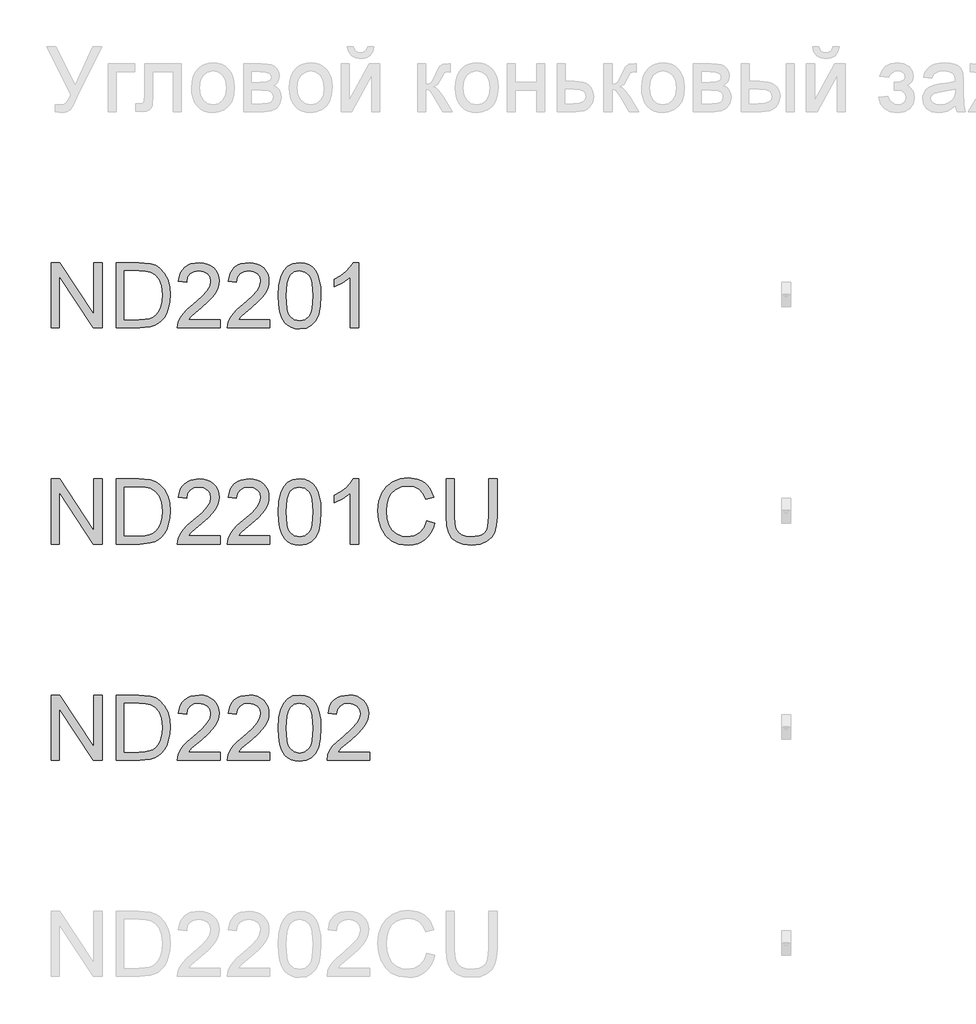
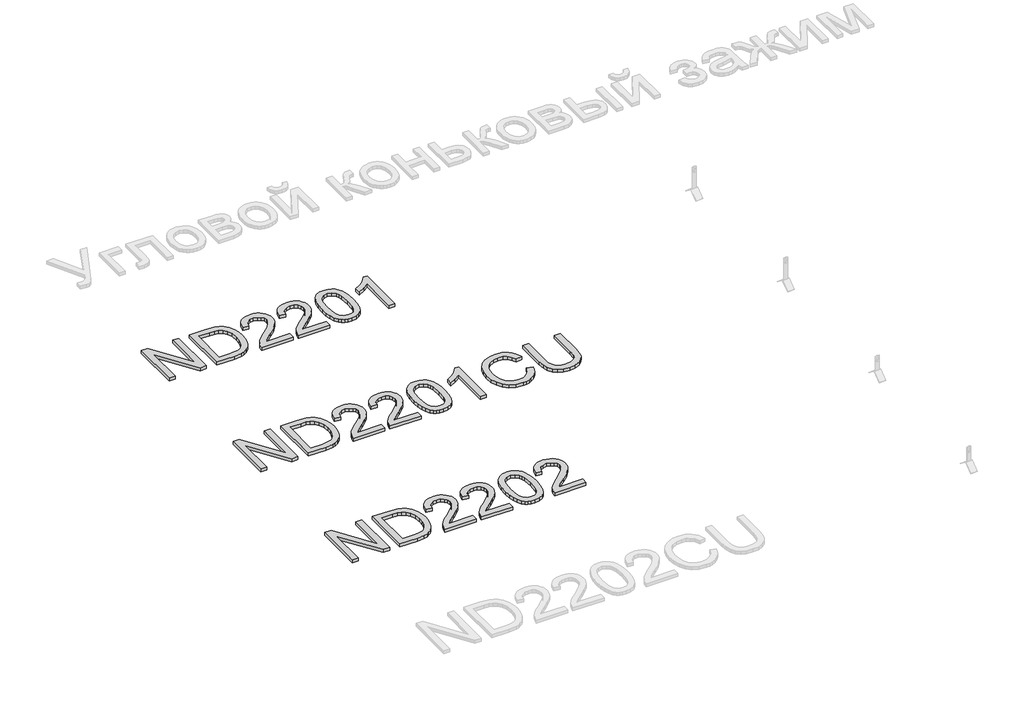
# One storey, part 102 of 124: 3 proxies.
"""IFC4 building model written with IfcOpenShell, lengths in millimetres."""

import ifcopenshell
import ifcopenshell.guid

model = None  # the IFC model being written
_history = None  # IfcOwnerHistory: only IFC2X3 demands one
_inside = {}  # id of a spatial element -> (the spatial element, [elements in it])
_under = {}  # id of a project, library or spatial element -> (it, [spatial elements below it])
_declared = {}  # id of a project -> (the project, [libraries it declares])
_typed = {}  # id of a type object -> (the type object, [elements of that type])
_made_of = {}  # id of a material, layer set ... -> (it, [elements and type objects made of it])


def new_model(schema):
    """Start an empty IFC model of exactly this schema.

    Asked for "IFC4X3", IfcOpenShell would pick the latest addendum, in which some entities
    have other attributes; the version numbers below select the first issue.
    IFC2X3 requires an IfcOwnerHistory on every rooted entity: one is made here for all.
    """
    global model, _history
    if schema == "IFC4X3":
        model = ifcopenshell.file(schema_version=(4, 3, 0, 0))
    else:
        model = ifcopenshell.file(schema=schema)
    _inside.clear()
    _under.clear()
    _declared.clear()
    _typed.clear()
    _made_of.clear()
    _history = None
    if model.schema == "IFC2X3":
        org = make("IfcOrganization", Name="unknown")
        user = make(
            "IfcPersonAndOrganization",
            ThePerson=make("IfcPerson", FamilyName="unknown"),
            TheOrganization=org,
        )
        app = make(
            "IfcApplication",
            ApplicationDeveloper=org,
            Version="unknown",
            ApplicationFullName="unknown",
            ApplicationIdentifier="unknown",
        )
        _history = make(
            "IfcOwnerHistory",
            OwningUser=user,
            OwningApplication=app,
            ChangeAction="ADDED",
            CreationDate=0,
        )
    return model


def make(cls, **values):
    """One entity of the class cls with the attributes given. An attribute that is None is left unset."""
    return model.create_entity(
        cls, **{name: value for name, value in values.items() if value is not None}
    )


def rooted(cls, **values):
    """An entity with a GlobalId (a new one), such as an element, a storey or a relation."""
    return make(cls, GlobalId=ifcopenshell.guid.new(), OwnerHistory=_history, **values)


def si_unit(unit_type, name, prefix=None):
    """IfcSIUnit, for example si_unit("LENGTHUNIT", "METRE", prefix="MILLI")."""
    return make("IfcSIUnit", UnitType=unit_type, Prefix=prefix, Name=name)


def assignment(units):
    """IfcUnitAssignment: the units of a project."""
    return None if units is None else make("IfcUnitAssignment", Units=units)


def point(xyz):
    """IfcCartesianPoint."""
    return None if xyz is None else make("IfcCartesianPoint", Coordinates=xyz)


def direction(xyz):
    """IfcDirection."""
    return None if xyz is None else make("IfcDirection", DirectionRatios=xyz)


def frame(location, z_axis=None, x_axis=None):
    """IfcAxis2Placement3D, a coordinate frame: its origin and axes. An axis left out is left unset."""
    return make(
        "IfcAxis2Placement3D",
        Location=point(location),
        Axis=direction(z_axis),
        RefDirection=direction(x_axis),
    )


def origin():
    """The frame at (0, 0, 0) with its axes left unset."""
    return frame((0.0, 0.0, 0.0))


def origin_with_axes():
    """The frame at (0, 0, 0) with the z axis (0, 0, 1) and the x axis (1, 0, 0) written out."""
    return frame((0.0, 0.0, 0.0), z_axis=(0.0, 0.0, 1.0), x_axis=(1.0, 0.0, 0.0))


def place(relative_to, where):
    """IfcLocalPlacement: puts the frame where relative to a parent placement (None: the world)."""
    return make(
        "IfcLocalPlacement", PlacementRelTo=relative_to, RelativePlacement=where
    )


def context(
    kind, dimensions, precision=None, world=None, true_north=None, identifier=None
):
    """IfcGeometricRepresentationContext, for example the 3D "Model" context."""
    return make(
        "IfcGeometricRepresentationContext",
        ContextIdentifier=identifier,
        ContextType=kind,
        CoordinateSpaceDimension=dimensions,
        Precision=precision,
        WorldCoordinateSystem=world,
        TrueNorth=true_north,
    )


def project(units=None, contexts=None):
    """IfcProject with its units and contexts."""
    return rooted(
        "IfcProject",
        Name="project",
        RepresentationContexts=contexts,
        UnitsInContext=assignment(units),
    )


def spatial(cls, under=None, at=None, **own):
    """A site, building, storey or space (cls), placed at a placement, below another one or the project."""
    s = rooted(cls, ObjectPlacement=at, **own)
    if under is not None:
        _under.setdefault(under.id(), (under, []))[1].append(s)
    return s


def polyline(points):
    """IfcPolyline through the points."""
    return make("IfcPolyline", Points=[point(p) for p in points])


def outline(outer, holes=None, kind="AREA"):
    """IfcArbitraryClosedProfileDef: a profile drawn as a closed curve; with holes, ...WithVoids."""
    if holes is None:
        return make("IfcArbitraryClosedProfileDef", ProfileType=kind, OuterCurve=outer)
    return make(
        "IfcArbitraryProfileDefWithVoids",
        ProfileType=kind,
        OuterCurve=outer,
        InnerCurves=holes,
    )


def extrude(swept, where, along, depth):
    """IfcExtrudedAreaSolid: the profile swept, set in the frame where, extruded along a direction by depth."""
    return make(
        "IfcExtrudedAreaSolid",
        SweptArea=swept,
        Position=where,
        ExtrudedDirection=direction(along),
        Depth=depth,
    )


def shape(context_of_items, identifier, shape_type, items):
    """IfcShapeRepresentation: the items that make up one representation, for example the "Body"."""
    return make(
        "IfcShapeRepresentation",
        ContextOfItems=context_of_items,
        RepresentationIdentifier=identifier,
        RepresentationType=shape_type,
        Items=items,
    )


def made_of(thing, what):
    """Note that an element or type object is made of a material, layer set ...; save() writes the relation."""
    if what is not None:
        _made_of.setdefault(what.id(), (what, []))[1].append(thing)
    return thing


def element(
    cls,
    number,
    at=None,
    inside=None,
    cuts=None,
    type_object=None,
    material=None,
    context=None,
    identifier="Body",
    shape_type=None,
    held_by="IfcProductDefinitionShape",
    body=None,
    shapes=None,
    **own,
):
    """One element of the class cls, such as IfcWall. Its Tag is "e" and its number.

    at: its placement. inside: the storey or other place that contains it. cuts: it is an
    opening in that element (IfcRelVoidsElement). A single representation is given by context,
    identifier, shape_type and body (its items); several are given by shapes. held_by: the class
    of the entity that holds the representations. save() writes the other relations.
    """
    e = rooted(cls, Tag="e%d" % number, ObjectPlacement=at, **own)
    if body is not None:
        shapes = [shape(context, identifier, shape_type, body)]
    if shapes is not None:
        e.Representation = make(held_by, Representations=shapes)
    if inside is not None:
        _inside.setdefault(inside.id(), (inside, []))[1].append(e)
    if cuts is not None:
        rooted(
            "IfcRelVoidsElement", RelatingBuildingElement=cuts, RelatedOpeningElement=e
        )
    if type_object is not None:
        _typed.setdefault(type_object.id(), (type_object, []))[1].append(e)
    return made_of(e, material)


def aggregate(whole, parts):
    """IfcRelAggregates: a whole, such as a stair, and the parts it consists of."""
    return rooted("IfcRelAggregates", RelatingObject=whole, RelatedObjects=parts)


def save(model, path):
    """Write the relations noted so far, then the file.

    IfcRelAggregates (storeys below a building ...), IfcRelContainedInSpatialStructure (elements
    in a storey), IfcRelDefinesByType, IfcRelAssociatesMaterial and IfcRelDeclares: one each for
    every whole, place, type object, material and project.
    """
    for whole, parts in _under.values():
        aggregate(whole, parts)
    for where, things in _inside.values():
        rooted(
            "IfcRelContainedInSpatialStructure",
            RelatedElements=things,
            RelatingStructure=where,
        )
    for kind, things in _typed.values():
        rooted("IfcRelDefinesByType", RelatedObjects=things, RelatingType=kind)
    for what, things in _made_of.values():
        rooted("IfcRelAssociatesMaterial", RelatedObjects=things, RelatingMaterial=what)
    for by, libraries in _declared.values():
        rooted("IfcRelDeclares", RelatingContext=by, RelatedDefinitions=libraries)
    model.write(path)


model = new_model("IFC4")

# Units and contexts
model_context = context("Model", 3, world=origin())
ifc_project = project(units=[si_unit("LENGTHUNIT", "METRE", prefix="MILLI")], contexts=[model_context])

# Site, building, storey
site = spatial("IfcSite", under=ifc_project)
building = spatial("IfcBuilding", under=site)
storey = spatial("IfcBuildingStorey", under=building, Name="Этаж 01", Elevation=0.0)

# Proxies
placement = place(None, origin())
element("IfcBuildingElementProxy", 1, Name="300", ObjectType="300", at=placement, inside=storey, context=model_context, shape_type="SweptSolid", body=[
    extrude(outline(polyline([(23340.1671275, -5519.5141033), (23340.1671275, -5218.1451728), (23380.4869942, -5218.1451728), (23537.9404881, -5456.9005877), (23537.9404881, -5218.1451728), (23575.6116044, -5218.1451728), (23575.6116044, -5519.5141033), (23535.2917378, -5519.5141033), (23377.8382438, -5280.685112), (23377.8382438, -5519.5141033), (23340.1671275, -5519.5141033)])), origin_with_axes(), (0.0, 0.0, 1.0), 20.0),
    extrude(outline(polyline([(23641.536058, -5519.5141033), (23641.536058, -5218.1451728), (23745.4995098, -5218.1451728), (23799.2838575, -5222.4861804), (23823.3065518, -5230.8554957), (23843.5768497, -5244.0440653), (23864.4173648, -5266.9999018), (23879.2614033, -5295.5475446), (23888.1457534, -5329.1351708), (23891.1072035, -5367.2109573), (23889.1022466, -5399.5569817), (23883.087376, -5428.0218511), (23873.9271143, -5452.2560775), (23862.4859843, -5471.9101731), (23849.3158089, -5487.4255962), (23834.968411, -5499.2438053), (23818.4964947, -5508.0085939), (23798.9527637, -5514.3637553), (23750.5027049, -5519.5141033), (23641.536058, -5519.5141033)]), holes=[polyline([(23679.2071743, -5481.842987), (23745.8673918, -5481.842987), (23773.4401473, -5480.4818236), (23794.3542388, -5476.3983334), (23810.1363764, -5469.8316398), (23822.3132704, -5461.020866), (23835.4006724, -5444.7144966), (23845.2323187, -5423.6072671), (23851.3851451, -5397.6072071), (23853.4360872, -5366.6223461), (23849.4169764, -5325.5667154), (23837.359644, -5295.253239), (23819.5449584, -5274.4311181), (23798.2537879, -5261.8495538), (23776.5855384, -5257.3246053), (23744.8373222, -5255.8162891), (23679.2071743, -5255.8162891), (23679.2071743, -5481.842987)])]), origin_with_axes(), (0.0, 0.0, 1.0), 20.0),
    extrude(outline(polyline([(24121.8427909, -5481.842987), (24121.8427909, -5519.5141033), (23924.0694303, -5519.5141033), (23928.1161322, -5493.5416344), (23937.4051526, -5473.2437453), (23950.9983923, -5453.5528615), (23970.661685, -5432.9422727), (23998.1608641, -5409.8852687), (24038.8118246, -5373.7776509), (24063.2024008, -5347.1246003), (24075.397689, -5325.493139), (24079.462785, -5304.4502889), (24075.6276152, -5285.5871396), (24064.1221058, -5269.9061695), (24046.4361789, -5259.3387592), (24024.0597566, -5255.8162891), (24000.5612941, -5259.2559858), (23982.3051501, -5269.5750757), (23970.5237292, -5285.9642186), (23966.4494361, -5307.614074), (23928.7783198, -5302.9051845), (23937.9109903, -5266.4664729), (23946.4573489, -5251.9305355), (23957.6570564, -5239.8502105), (23971.2525954, -5230.3542565), (23986.9864485, -5223.5714322), (24024.869097, -5218.1451728), (24045.0589207, -5219.653489), (24063.0276569, -5224.1784375), (24078.7753056, -5231.7200184), (24092.3018667, -5242.2782317), (24103.1658818, -5255.0713281), (24110.9258927, -5269.3175583), (24115.5818992, -5285.0169225), (24117.1339013, -5302.1694205), (24115.4600383, -5320.1864412), (24110.438449, -5337.8907622), (24101.5265077, -5355.8985859), (24088.1815883, -5374.8261146), (24066.9088119, -5397.4232661), (24034.2132996, -5426.4399585), (23990.8768006, -5462.676335), (23973.8806524, -5481.842987), (24121.8427909, -5481.842987)])), origin_with_axes(), (0.0, 0.0, 1.0), 20.0),
    extrude(outline(polyline([(24352.5783783, -5481.842987), (24352.5783783, -5519.5141033), (24154.8050176, -5519.5141033), (24158.8517196, -5493.5416344), (24168.14074, -5473.2437453), (24181.7339797, -5453.5528615), (24201.3972723, -5432.9422727), (24228.8964515, -5409.8852687), (24269.5474119, -5373.7776509), (24293.9379882, -5347.1246003), (24306.1332764, -5325.493139), (24310.1983724, -5304.4502889), (24306.3632026, -5285.5871396), (24294.8576932, -5269.9061695), (24277.1717663, -5259.3387592), (24254.7953439, -5255.8162891), (24231.2968815, -5259.2559858), (24213.0407375, -5269.5750757), (24201.2593166, -5285.9642186), (24197.1850235, -5307.614074), (24159.5139072, -5302.9051845), (24168.6465777, -5266.4664729), (24177.1929363, -5251.9305355), (24188.3926438, -5239.8502105), (24201.9881828, -5230.3542565), (24217.7220359, -5223.5714322), (24255.6046843, -5218.1451728), (24275.7945081, -5219.653489), (24293.7632443, -5224.1784375), (24309.5108929, -5231.7200184), (24323.037454, -5242.2782317), (24333.9014692, -5255.0713281), (24341.66148, -5269.3175583), (24346.3174865, -5285.0169225), (24347.8694887, -5302.1694205), (24346.1956256, -5320.1864412), (24341.1740364, -5337.8907622), (24332.2620951, -5355.8985859), (24318.9171757, -5374.8261146), (24297.6443993, -5397.4232661), (24264.948887, -5426.4399585), (24221.612388, -5462.676335), (24204.6162398, -5481.842987), (24352.5783783, -5481.842987)])), origin_with_axes(), (0.0, 0.0, 1.0), 20.0),
    extrude(outline(polyline([(24390.2494946, -5371.2576592), (24393.0178066, -5323.0191326), (24401.3227426, -5284.5478729), (24415.0815292, -5255.2552691), (24434.211393, -5234.5527098), (24458.8502896, -5222.2470571), (24489.1361749, -5218.1451728), (24512.3495288, -5220.573194), (24533.1348615, -5227.8572575), (24550.5172858, -5239.7122548), (24563.5219143, -5255.8530773), (24573.3443636, -5276.1417694), (24581.1802501, -5300.4403751), (24586.3122039, -5331.2964775), (24588.0228552, -5371.2576592), (24585.2821343, -5419.2202743), (24577.0599717, -5457.5995635), (24563.3839585, -5486.9197585), (24544.2816859, -5507.7050912), (24519.587607, -5520.0935174), (24489.1361749, -5524.2229928), (24468.3876303, -5522.4295681), (24449.9935306, -5517.0492939), (24433.9538756, -5508.0821703), (24420.2686654, -5495.5281972), (24407.1352781, -5472.8344766), (24397.7542873, -5444.5581467), (24392.1256927, -5410.6992076), (24390.2494946, -5371.2576592)]), holes=[polyline([(24427.9206109, -5371.1840828), (24432.3351948, -5430.4406752), (24437.8534247, -5450.7086739), (24445.5789466, -5464.7364742), (24465.2974216, -5481.0980259), (24489.1361749, -5486.5518765), (24512.9749282, -5481.0796318), (24532.6934031, -5464.6628978), (24540.418925, -5450.6121048), (24545.9371549, -5430.3487047), (24550.3517389, -5371.1840828), (24546.0843077, -5313.2610627), (24540.7500188, -5293.0597426), (24533.2820143, -5278.6985492), (24513.6003275, -5261.5368541), (24488.6947165, -5255.8162891), (24465.1134806, -5260.8562725), (24446.1675578, -5275.9762225), (24438.1845185, -5291.6112072), (24432.4823476, -5312.6908456), (24427.9206109, -5371.1840828)])]), origin_with_axes(), (0.0, 0.0, 1.0), 20.0),
    extrude(outline(polyline([(24762.2517681, -5519.5141033), (24724.5806518, -5519.5141033), (24724.5806518, -5284.6582375), (24688.8960982, -5310.0788834), (24649.2384192, -5329.0983826), (24649.2384192, -5293.4874054), (24678.8253286, -5277.3925681), (24704.4575066, -5258.2443103), (24724.6634252, -5237.8820419), (24737.9715564, -5218.1451728), (24762.2517681, -5218.1451728), (24762.2517681, -5519.5141033)])), origin_with_axes(), (0.0, 0.0, 1.0), 20.0),
])
element("IfcBuildingElementProxy", 2, Name="300", ObjectType="300", at=placement, inside=storey, context=model_context, shape_type="SweptSolid", body=[
    extrude(outline(polyline([(23340.1671275, -6519.5141033), (23340.1671275, -6218.1451728), (23380.4869942, -6218.1451728), (23537.9404881, -6456.9005877), (23537.9404881, -6218.1451728), (23575.6116044, -6218.1451728), (23575.6116044, -6519.5141033), (23535.2917378, -6519.5141033), (23377.8382438, -6280.685112), (23377.8382438, -6519.5141033), (23340.1671275, -6519.5141033)])), origin_with_axes(), (0.0, 0.0, 1.0), 20.0),
    extrude(outline(polyline([(23641.536058, -6519.5141033), (23641.536058, -6218.1451728), (23745.4995098, -6218.1451728), (23799.2838575, -6222.4861804), (23823.3065518, -6230.8554957), (23843.5768497, -6244.0440653), (23864.4173648, -6266.9999018), (23879.2614033, -6295.5475446), (23888.1457534, -6329.1351708), (23891.1072035, -6367.2109573), (23889.1022466, -6399.5569817), (23883.087376, -6428.0218511), (23873.9271143, -6452.2560775), (23862.4859843, -6471.9101731), (23849.3158089, -6487.4255962), (23834.968411, -6499.2438053), (23818.4964947, -6508.0085939), (23798.9527637, -6514.3637553), (23750.5027049, -6519.5141033), (23641.536058, -6519.5141033)]), holes=[polyline([(23679.2071743, -6481.842987), (23745.8673918, -6481.842987), (23773.4401473, -6480.4818236), (23794.3542388, -6476.3983334), (23810.1363764, -6469.8316398), (23822.3132704, -6461.020866), (23835.4006724, -6444.7144966), (23845.2323187, -6423.6072671), (23851.3851451, -6397.6072071), (23853.4360872, -6366.6223461), (23849.4169764, -6325.5667154), (23837.359644, -6295.253239), (23819.5449584, -6274.4311181), (23798.2537879, -6261.8495538), (23776.5855384, -6257.3246053), (23744.8373222, -6255.8162891), (23679.2071743, -6255.8162891), (23679.2071743, -6481.842987)])]), origin_with_axes(), (0.0, 0.0, 1.0), 20.0),
    extrude(outline(polyline([(24121.8427909, -6481.842987), (24121.8427909, -6519.5141033), (23924.0694303, -6519.5141033), (23928.1161322, -6493.5416344), (23937.4051526, -6473.2437453), (23950.9983923, -6453.5528615), (23970.661685, -6432.9422727), (23998.1608641, -6409.8852687), (24038.8118246, -6373.7776509), (24063.2024008, -6347.1246003), (24075.397689, -6325.493139), (24079.462785, -6304.4502889), (24075.6276152, -6285.5871396), (24064.1221058, -6269.9061695), (24046.4361789, -6259.3387592), (24024.0597566, -6255.8162891), (24000.5612941, -6259.2559858), (23982.3051501, -6269.5750757), (23970.5237292, -6285.9642186), (23966.4494361, -6307.614074), (23928.7783198, -6302.9051845), (23937.9109903, -6266.4664729), (23946.4573489, -6251.9305355), (23957.6570564, -6239.8502105), (23971.2525954, -6230.3542565), (23986.9864485, -6223.5714322), (24024.869097, -6218.1451728), (24045.0589207, -6219.653489), (24063.0276569, -6224.1784375), (24078.7753056, -6231.7200184), (24092.3018667, -6242.2782317), (24103.1658818, -6255.0713281), (24110.9258927, -6269.3175583), (24115.5818992, -6285.0169225), (24117.1339013, -6302.1694205), (24115.4600383, -6320.1864412), (24110.438449, -6337.8907622), (24101.5265077, -6355.8985859), (24088.1815883, -6374.8261146), (24066.9088119, -6397.4232661), (24034.2132996, -6426.4399585), (23990.8768006, -6462.676335), (23973.8806524, -6481.842987), (24121.8427909, -6481.842987)])), origin_with_axes(), (0.0, 0.0, 1.0), 20.0),
    extrude(outline(polyline([(24352.5783783, -6481.842987), (24352.5783783, -6519.5141033), (24154.8050176, -6519.5141033), (24158.8517196, -6493.5416344), (24168.14074, -6473.2437453), (24181.7339797, -6453.5528615), (24201.3972723, -6432.9422727), (24228.8964515, -6409.8852687), (24269.5474119, -6373.7776509), (24293.9379882, -6347.1246003), (24306.1332764, -6325.493139), (24310.1983724, -6304.4502889), (24306.3632026, -6285.5871396), (24294.8576932, -6269.9061695), (24277.1717663, -6259.3387592), (24254.7953439, -6255.8162891), (24231.2968815, -6259.2559858), (24213.0407375, -6269.5750757), (24201.2593166, -6285.9642186), (24197.1850235, -6307.614074), (24159.5139072, -6302.9051845), (24168.6465777, -6266.4664729), (24177.1929363, -6251.9305355), (24188.3926438, -6239.8502105), (24201.9881828, -6230.3542565), (24217.7220359, -6223.5714322), (24255.6046843, -6218.1451728), (24275.7945081, -6219.653489), (24293.7632443, -6224.1784375), (24309.5108929, -6231.7200184), (24323.037454, -6242.2782317), (24333.9014692, -6255.0713281), (24341.66148, -6269.3175583), (24346.3174865, -6285.0169225), (24347.8694887, -6302.1694205), (24346.1956256, -6320.1864412), (24341.1740364, -6337.8907622), (24332.2620951, -6355.8985859), (24318.9171757, -6374.8261146), (24297.6443993, -6397.4232661), (24264.948887, -6426.4399585), (24221.612388, -6462.676335), (24204.6162398, -6481.842987), (24352.5783783, -6481.842987)])), origin_with_axes(), (0.0, 0.0, 1.0), 20.0),
    extrude(outline(polyline([(24390.2494946, -6371.2576592), (24393.0178066, -6323.0191326), (24401.3227426, -6284.5478729), (24415.0815292, -6255.2552691), (24434.211393, -6234.5527098), (24458.8502896, -6222.2470571), (24489.1361749, -6218.1451728), (24512.3495288, -6220.573194), (24533.1348615, -6227.8572575), (24550.5172858, -6239.7122548), (24563.5219143, -6255.8530773), (24573.3443636, -6276.1417694), (24581.1802501, -6300.4403751), (24586.3122039, -6331.2964775), (24588.0228552, -6371.2576592), (24585.2821343, -6419.2202743), (24577.0599717, -6457.5995635), (24563.3839585, -6486.9197585), (24544.2816859, -6507.7050912), (24519.587607, -6520.0935174), (24489.1361749, -6524.2229928), (24468.3876303, -6522.4295681), (24449.9935306, -6517.0492939), (24433.9538756, -6508.0821703), (24420.2686654, -6495.5281972), (24407.1352781, -6472.8344766), (24397.7542873, -6444.5581467), (24392.1256927, -6410.6992076), (24390.2494946, -6371.2576592)]), holes=[polyline([(24427.9206109, -6371.1840828), (24432.3351948, -6430.4406752), (24437.8534247, -6450.7086739), (24445.5789466, -6464.7364742), (24465.2974216, -6481.0980259), (24489.1361749, -6486.5518765), (24512.9749282, -6481.0796318), (24532.6934031, -6464.6628978), (24540.418925, -6450.6121048), (24545.9371549, -6430.3487047), (24550.3517389, -6371.1840828), (24546.0843077, -6313.2610627), (24540.7500188, -6293.0597426), (24533.2820143, -6278.6985492), (24513.6003275, -6261.5368541), (24488.6947165, -6255.8162891), (24465.1134806, -6260.8562725), (24446.1675578, -6275.9762225), (24438.1845185, -6291.6112072), (24432.4823476, -6312.6908456), (24427.9206109, -6371.1840828)])]), origin_with_axes(), (0.0, 0.0, 1.0), 20.0),
    extrude(outline(polyline([(24762.2517681, -6519.5141033), (24724.5806518, -6519.5141033), (24724.5806518, -6284.6582375), (24688.8960982, -6310.0788834), (24649.2384192, -6329.0983826), (24649.2384192, -6293.4874054), (24678.8253286, -6277.3925681), (24704.4575066, -6258.2443103), (24724.6634252, -6237.8820419), (24737.9715564, -6218.1451728), (24762.2517681, -6218.1451728), (24762.2517681, -6519.5141033)])), origin_with_axes(), (0.0, 0.0, 1.0), 20.0),
    extrude(outline(polyline([(25077.7473671, -6412.3868663), (25115.4184835, -6422.0989509), (25107.9642745, -6445.5261362), (25098.0360592, -6465.99647), (25085.6338374, -6483.5099522), (25070.7576092, -6498.0665829), (25053.743067, -6509.5100123), (25034.9259029, -6517.6838903), (25014.3061171, -6522.5882172), (24991.8837095, -6524.2229928), (24948.1885255, -6519.27498), (24913.4880563, -6504.4309415), (24886.890188, -6480.2059121), (24867.5028069, -6447.1149266), (24855.6662037, -6408.2114056), (24851.7206693, -6366.5487697), (24856.1812385, -6322.6052653), (24869.5629461, -6284.6582375), (24891.1668162, -6253.9124998), (24920.2938732, -6231.5728656), (24954.8379926, -6217.9704289), (24992.6930499, -6213.4362833), (25033.9970009, -6219.3040011), (25051.9657371, -6226.6386484), (25068.1456471, -6236.9071546), (25082.2700164, -6249.8382067), (25094.0721307, -6265.1604918), (25110.7095939, -6302.9787609), (25073.0384776, -6311.9550816), (25059.9786668, -6284.4834936), (25042.13639, -6265.6387384), (25019.2909181, -6254.7402343), (24991.2215219, -6251.1073996), (24958.8663004, -6255.1357074), (24932.2868263, -6267.220631), (24912.1176959, -6286.0929773), (24898.9935057, -6310.4835536), (24891.7922156, -6338.0563091), (24889.3917856, -6366.4751933), (24892.233674, -6401.27683), (24900.7593393, -6431.3695772), (24915.2906781, -6455.6038036), (24936.1495872, -6472.8298781), (24961.1563658, -6483.1213769), (24988.1313131, -6486.5518765), (25019.5760267, -6481.8797752), (25045.7784218, -6467.8634711), (25065.5612761, -6444.6501172), (25077.7473671, -6412.3868663)])), origin_with_axes(), (0.0, 0.0, 1.0), 20.0),
    extrude(outline(polyline([(25364.989629, -6218.1451728), (25402.6607453, -6218.1451728), (25402.6607453, -6392.0062037), (25400.1039654, -6432.7215435), (25392.4336258, -6464.0742866), (25378.1046221, -6488.2625278), (25355.5718499, -6507.484362), (25324.7801269, -6520.0383351), (25285.6742708, -6524.2229928), (25247.4237404, -6520.580961), (25216.8435495, -6509.6548658), (25193.9245012, -6491.8217861), (25178.6573984, -6467.4588009), (25170.0765509, -6434.7816827), (25167.2162684, -6392.0062037), (25167.2162684, -6218.1451728), (25204.8873847, -6218.1451728), (25204.8873847, -6390.6818285), (25206.7451888, -6424.5361692), (25212.318601, -6448.108208), (25222.4169618, -6464.4329715), (25237.8496114, -6476.5454862), (25257.9727566, -6484.0502789), (25282.1426037, -6486.5518765), (25320.4575135, -6481.6038637), (25334.8003128, -6475.4188476), (25345.9333416, -6466.7598252), (25354.2704673, -6454.5829311), (25360.2255571, -6437.8443003), (25364.989629, -6390.6818285), (25364.989629, -6218.1451728)])), origin_with_axes(), (0.0, 0.0, 1.0), 20.0),
])
element("IfcBuildingElementProxy", 3, Name="300", ObjectType="300", at=placement, inside=storey, context=model_context, shape_type="SweptSolid", body=[
    extrude(outline(polyline([(23340.1671275, -7519.5141033), (23340.1671275, -7218.1451728), (23380.4869942, -7218.1451728), (23537.9404881, -7456.9005877), (23537.9404881, -7218.1451728), (23575.6116044, -7218.1451728), (23575.6116044, -7519.5141033), (23535.2917378, -7519.5141033), (23377.8382438, -7280.685112), (23377.8382438, -7519.5141033), (23340.1671275, -7519.5141033)])), origin_with_axes(), (0.0, 0.0, 1.0), 20.0),
    extrude(outline(polyline([(23641.536058, -7519.5141033), (23641.536058, -7218.1451728), (23745.4995098, -7218.1451728), (23799.2838575, -7222.4861804), (23823.3065518, -7230.8554957), (23843.5768497, -7244.0440653), (23864.4173648, -7266.9999018), (23879.2614033, -7295.5475446), (23888.1457534, -7329.1351708), (23891.1072035, -7367.2109573), (23889.1022466, -7399.5569817), (23883.087376, -7428.0218511), (23873.9271143, -7452.2560775), (23862.4859843, -7471.9101731), (23849.3158089, -7487.4255962), (23834.968411, -7499.2438053), (23818.4964947, -7508.0085939), (23798.9527637, -7514.3637553), (23750.5027049, -7519.5141033), (23641.536058, -7519.5141033)]), holes=[polyline([(23679.2071743, -7481.842987), (23745.8673918, -7481.842987), (23773.4401473, -7480.4818236), (23794.3542388, -7476.3983334), (23810.1363764, -7469.8316398), (23822.3132704, -7461.020866), (23835.4006724, -7444.7144966), (23845.2323187, -7423.6072671), (23851.3851451, -7397.6072071), (23853.4360872, -7366.6223461), (23849.4169764, -7325.5667154), (23837.359644, -7295.253239), (23819.5449584, -7274.4311181), (23798.2537879, -7261.8495538), (23776.5855384, -7257.3246053), (23744.8373222, -7255.8162891), (23679.2071743, -7255.8162891), (23679.2071743, -7481.842987)])]), origin_with_axes(), (0.0, 0.0, 1.0), 20.0),
    extrude(outline(polyline([(24121.8427909, -7481.842987), (24121.8427909, -7519.5141033), (23924.0694303, -7519.5141033), (23928.1161322, -7493.5416344), (23937.4051526, -7473.2437453), (23950.9983923, -7453.5528615), (23970.661685, -7432.9422727), (23998.1608641, -7409.8852687), (24038.8118246, -7373.7776509), (24063.2024008, -7347.1246003), (24075.397689, -7325.493139), (24079.462785, -7304.4502889), (24075.6276152, -7285.5871396), (24064.1221058, -7269.9061695), (24046.4361789, -7259.3387592), (24024.0597566, -7255.8162891), (24000.5612941, -7259.2559858), (23982.3051501, -7269.5750757), (23970.5237292, -7285.9642186), (23966.4494361, -7307.614074), (23928.7783198, -7302.9051845), (23937.9109903, -7266.4664729), (23946.4573489, -7251.9305355), (23957.6570564, -7239.8502105), (23971.2525954, -7230.3542565), (23986.9864485, -7223.5714322), (24024.869097, -7218.1451728), (24045.0589207, -7219.653489), (24063.0276569, -7224.1784375), (24078.7753056, -7231.7200184), (24092.3018667, -7242.2782317), (24103.1658818, -7255.0713281), (24110.9258927, -7269.3175583), (24115.5818992, -7285.0169225), (24117.1339013, -7302.1694205), (24115.4600383, -7320.1864412), (24110.438449, -7337.8907622), (24101.5265077, -7355.8985859), (24088.1815883, -7374.8261146), (24066.9088119, -7397.4232661), (24034.2132996, -7426.4399585), (23990.8768006, -7462.676335), (23973.8806524, -7481.842987), (24121.8427909, -7481.842987)])), origin_with_axes(), (0.0, 0.0, 1.0), 20.0),
    extrude(outline(polyline([(24352.5783783, -7481.842987), (24352.5783783, -7519.5141033), (24154.8050176, -7519.5141033), (24158.8517196, -7493.5416344), (24168.14074, -7473.2437453), (24181.7339797, -7453.5528615), (24201.3972723, -7432.9422727), (24228.8964515, -7409.8852687), (24269.5474119, -7373.7776509), (24293.9379882, -7347.1246003), (24306.1332764, -7325.493139), (24310.1983724, -7304.4502889), (24306.3632026, -7285.5871396), (24294.8576932, -7269.9061695), (24277.1717663, -7259.3387592), (24254.7953439, -7255.8162891), (24231.2968815, -7259.2559858), (24213.0407375, -7269.5750757), (24201.2593166, -7285.9642186), (24197.1850235, -7307.614074), (24159.5139072, -7302.9051845), (24168.6465777, -7266.4664729), (24177.1929363, -7251.9305355), (24188.3926438, -7239.8502105), (24201.9881828, -7230.3542565), (24217.7220359, -7223.5714322), (24255.6046843, -7218.1451728), (24275.7945081, -7219.653489), (24293.7632443, -7224.1784375), (24309.5108929, -7231.7200184), (24323.037454, -7242.2782317), (24333.9014692, -7255.0713281), (24341.66148, -7269.3175583), (24346.3174865, -7285.0169225), (24347.8694887, -7302.1694205), (24346.1956256, -7320.1864412), (24341.1740364, -7337.8907622), (24332.2620951, -7355.8985859), (24318.9171757, -7374.8261146), (24297.6443993, -7397.4232661), (24264.948887, -7426.4399585), (24221.612388, -7462.676335), (24204.6162398, -7481.842987), (24352.5783783, -7481.842987)])), origin_with_axes(), (0.0, 0.0, 1.0), 20.0),
    extrude(outline(polyline([(24390.2494946, -7371.2576592), (24393.0178066, -7323.0191326), (24401.3227426, -7284.5478729), (24415.0815292, -7255.2552691), (24434.211393, -7234.5527098), (24458.8502896, -7222.2470571), (24489.1361749, -7218.1451728), (24512.3495288, -7220.573194), (24533.1348615, -7227.8572575), (24550.5172858, -7239.7122548), (24563.5219143, -7255.8530773), (24573.3443636, -7276.1417694), (24581.1802501, -7300.4403751), (24586.3122039, -7331.2964775), (24588.0228552, -7371.2576592), (24585.2821343, -7419.2202743), (24577.0599717, -7457.5995635), (24563.3839585, -7486.9197585), (24544.2816859, -7507.7050912), (24519.587607, -7520.0935174), (24489.1361749, -7524.2229928), (24468.3876303, -7522.4295681), (24449.9935306, -7517.0492939), (24433.9538756, -7508.0821703), (24420.2686654, -7495.5281972), (24407.1352781, -7472.8344766), (24397.7542873, -7444.5581467), (24392.1256927, -7410.6992076), (24390.2494946, -7371.2576592)]), holes=[polyline([(24427.9206109, -7371.1840828), (24432.3351948, -7430.4406752), (24437.8534247, -7450.7086739), (24445.5789466, -7464.7364742), (24465.2974216, -7481.0980259), (24489.1361749, -7486.5518765), (24512.9749282, -7481.0796318), (24532.6934031, -7464.6628978), (24540.418925, -7450.6121048), (24545.9371549, -7430.3487047), (24550.3517389, -7371.1840828), (24546.0843077, -7313.2610627), (24540.7500188, -7293.0597426), (24533.2820143, -7278.6985492), (24513.6003275, -7261.5368541), (24488.6947165, -7255.8162891), (24465.1134806, -7260.8562725), (24446.1675578, -7275.9762225), (24438.1845185, -7291.6112072), (24432.4823476, -7312.6908456), (24427.9206109, -7371.1840828)])]), origin_with_axes(), (0.0, 0.0, 1.0), 20.0),
    extrude(outline(polyline([(24814.049553, -7481.842987), (24814.049553, -7519.5141033), (24616.2761924, -7519.5141033), (24620.3228943, -7493.5416344), (24629.6119147, -7473.2437453), (24643.2051544, -7453.5528615), (24662.8684471, -7432.9422727), (24690.3676262, -7409.8852687), (24731.0185867, -7373.7776509), (24755.409163, -7347.1246003), (24767.6044511, -7325.493139), (24771.6695472, -7304.4502889), (24767.8343774, -7285.5871396), (24756.328868, -7269.9061695), (24738.642941, -7259.3387592), (24716.2665187, -7255.8162891), (24692.7680562, -7259.2559858), (24674.5119122, -7269.5750757), (24662.7304913, -7285.9642186), (24658.6561982, -7307.614074), (24620.9850819, -7302.9051845), (24630.1177525, -7266.4664729), (24638.6641111, -7251.9305355), (24649.8638186, -7239.8502105), (24663.4593575, -7230.3542565), (24679.1932106, -7223.5714322), (24717.0758591, -7218.1451728), (24737.2656828, -7219.653489), (24755.234419, -7224.1784375), (24770.9820677, -7231.7200184), (24784.5086288, -7242.2782317), (24795.372644, -7255.0713281), (24803.1326548, -7269.3175583), (24807.7886613, -7285.0169225), (24809.3406635, -7302.1694205), (24807.6668004, -7320.1864412), (24802.6452112, -7337.8907622), (24793.7332698, -7355.8985859), (24780.3883504, -7374.8261146), (24759.1155741, -7397.4232661), (24726.4200618, -7426.4399585), (24683.0835627, -7462.676335), (24666.0874145, -7481.842987), (24814.049553, -7481.842987)])), origin_with_axes(), (0.0, 0.0, 1.0), 20.0),
])

save(model, "model.ifc")
